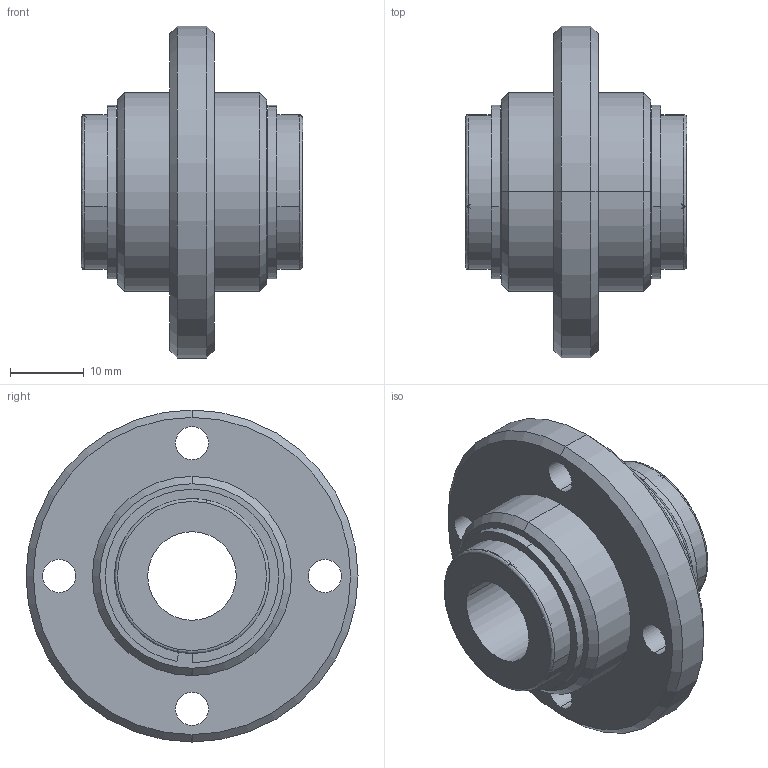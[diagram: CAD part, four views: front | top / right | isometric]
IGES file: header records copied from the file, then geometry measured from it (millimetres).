
Start section: 3D InterOp IGES (Version 21 0 1), Spatial Corp. Copyright (c) 1999-2007.
Global section: file name: PNCD-12VUU.igs; native system: Spatial Corp.; preprocessor: 3D InterOp GENERIC/IGES 3.0; author: Noname; organization: Noname; date: 20220207.092904; units: millimetre
Bounding box: 30 x 45 x 45 mm (x, y, z)
Surface area: 10756.4 mm2 (no closed solid volume)
Topology: 0 solids, 0 shells, 66 faces, 308 edges, 304 vertices
Faces by surface type: revolution 48, extrusion 18
